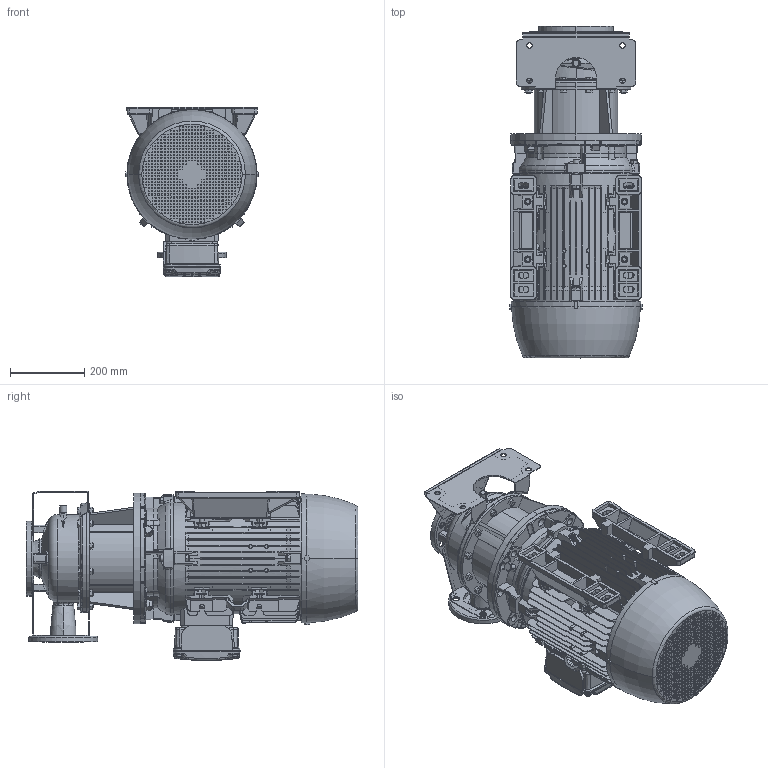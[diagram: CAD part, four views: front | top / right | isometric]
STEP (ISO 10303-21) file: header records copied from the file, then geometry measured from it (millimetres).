
FILE_DESCRIPTION (( 'STEP AP214' ), '1' );
FILE_NAME ('3LS 65-200_22.0_(180ML)_W21.STEP', '2026-04-29T05:43:01', ( '' ), ( '' ), 'SwSTEP 2.0', 'SolidWorks 2024', '' );
FILE_SCHEMA (( 'AUTOMOTIVE_DESIGN' ));
Length unit declared in the file: inch
Products named in the file (3): 3LS 65-200_22.0_(180ML)_W21; 65-200_22; 180M_L ALIE3_W21T_B35
Assembly tree (2 placements, depth 2):
  3LS 65-200_22.0_(180ML)_W21
    65-200_22
    180M_L ALIE3_W21T_B35
Bounding box: 356.01 x 891.8 x 454.71 mm (x, y, z)
Volume: 57278446.2 mm3; surface area: 3554654.3 mm2
Topology: 34 solids, 34 shells, 5624 faces, 14598 edges, 9499 vertices
Faces by surface type: plane 3710, cylinder 852, cone 499, bspline 362, torus 183, sphere 18
Entity records: 194210 total; most frequent: CARTESIAN_POINT 60857, ORIENTED_EDGE 29168, DIRECTION 24984, EDGE_CURVE 14584, LINE 9678, VECTOR 9678, VERTEX_POINT 9499, AXIS2_PLACEMENT_3D 7653
